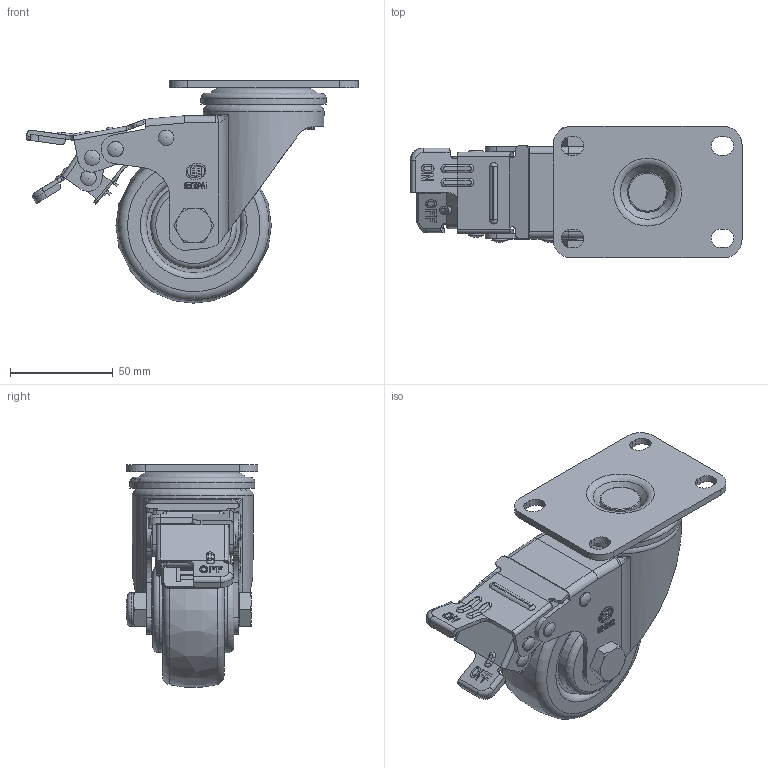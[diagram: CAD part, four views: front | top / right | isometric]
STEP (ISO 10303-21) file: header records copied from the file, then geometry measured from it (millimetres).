
FILE_DESCRIPTION(/* description */ (''),/* implementation_level */ '2;1');
FILE_NAME(/* name */ '20A3B_3_F.stp',/* time_stamp */ '2022-09-03T09:50:17+08:00',/* author */ (''),/* organization */ (''),/* preprocessor_version */ 'ST-DEVELOPER v14',/* originating_system */ 'SIEMENS PLM Software NX 8.0',/* authorisation */ '');
FILE_SCHEMA (('AUTOMOTIVE_DESIGN { 1 0 10303 214 3 1 1 1 }'));
Length unit declared in the file: millimetre
Products named in the file (1): 20A3B_3_F
Bounding box: 161.7 x 64.27 x 108.35 mm (x, y, z)
Volume: 212502.6 mm3; surface area: 106030.7 mm2
Topology: 1 solids, 2 shells, 1098 faces, 3168 edges, 2081 vertices
Faces by surface type: plane 508, cylinder 320, torus 84, sphere 76, cone 74, bspline 24, extrusion 12
Full cylindrical faces by diameter (mm): 4 x4, 5 x6, 5.2 x16, 7.5 x4, 10 x3, 10.3 x2, 11.2 x2, 12 x1, 12.2 x1, 12.496 x1, 13.2 x4, 16 x1, 16.5 x1, 17 x1, 20.8 x4, 23.2 x2, 24 x1, 30.122 x1, 33 x2, 41 x2, 42 x2, 45.996 x1, 46 x2, 54 x1, 56 x1, 59 x1, 61 x1
Entity records: 41476 total; most frequent: CARTESIAN_POINT 15193, ORIENTED_EDGE 5612, DIRECTION 5041, EDGE_CURVE 2806, AXIS2_PLACEMENT_3D 1920, VERTEX_POINT 1917, EDGE_LOOP 1388, VECTOR 1201
